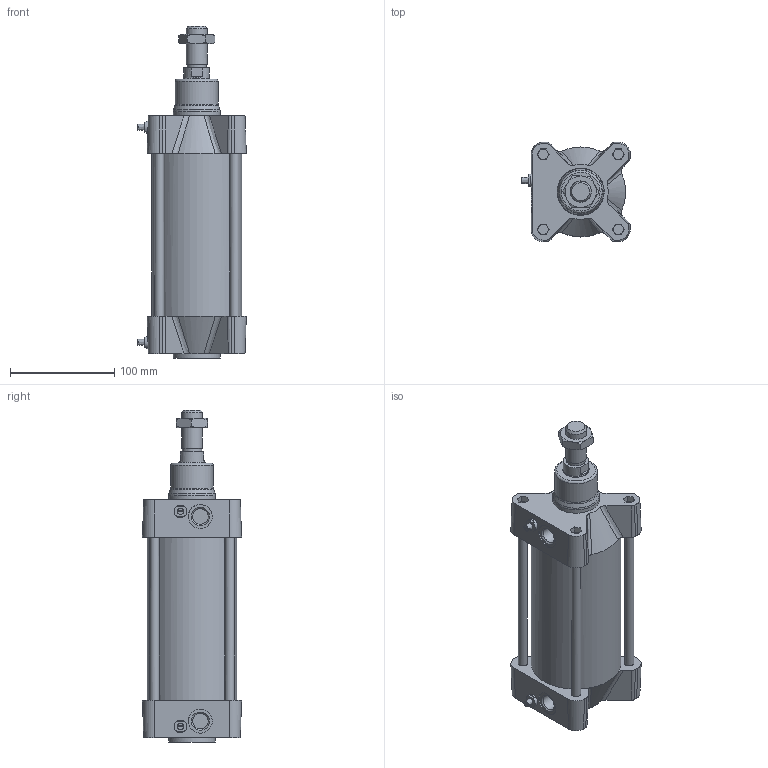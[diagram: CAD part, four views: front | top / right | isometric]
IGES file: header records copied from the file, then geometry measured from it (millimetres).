
Global section: file name: 1393_080_0100_01; native system: Autodesk Inventor 2014; preprocessor: unknown; author: A. Manieri; date: 20151130.150736; units: millimetre
Bounding box: 104 x 95 x 318 mm (x, y, z)
Volume: 1038751.3 mm3; surface area: 212476.7 mm2
Topology: 3 solids, 5 shells, 233 faces, 578 edges, 377 vertices
Faces by surface type: bspline 233
